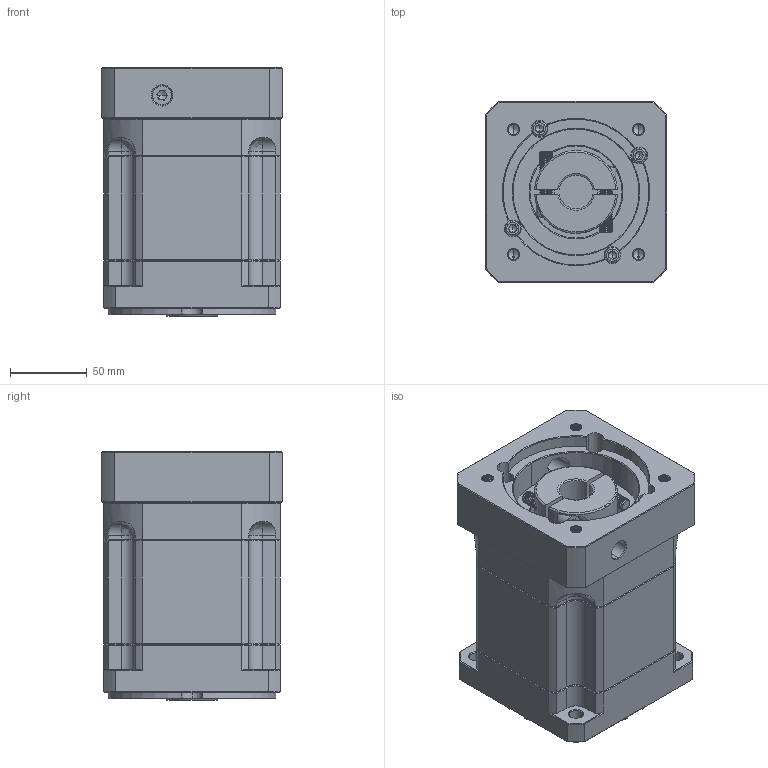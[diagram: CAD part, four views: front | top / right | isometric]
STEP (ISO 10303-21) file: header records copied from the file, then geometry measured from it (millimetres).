
FILE_DESCRIPTION (( 'STEP AP214' ), '1' );
FILE_NAME ('ZB115A-K25-L2-P2-22-95-115-M8.step', '2023-08-26T06:37:35', ( '' ), ( '' ), 'SwSTEP 2.0', 'SolidWorks 2016', '' );
FILE_SCHEMA (( 'AUTOMOTIVE_DESIGN' ));
Length unit declared in the file: millimetre
Products named in the file (1): ZB115A-K25-L2-P2-22-95-115-M8
Bounding box: 118 x 118 x 162 mm (x, y, z)
Volume: 1748223.8 mm3; surface area: 172881.6 mm2
Topology: 6 solids, 6 shells, 2351 faces, 6182 edges, 3927 vertices
Faces by surface type: plane 1137, cylinder 415, bspline 414, cone 365, torus 20
Entity records: 124321 total; most frequent: CARTESIAN_POINT 43831, ORIENTED_EDGE 12300, DIRECTION 9786, EDGE_CURVE 6150, VECTOR 3948, LINE 3948, VERTEX_POINT 3927, AXIS2_PLACEMENT_3D 2919
